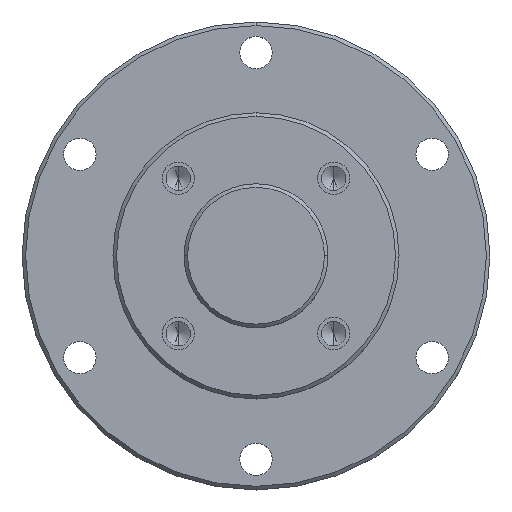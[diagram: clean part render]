
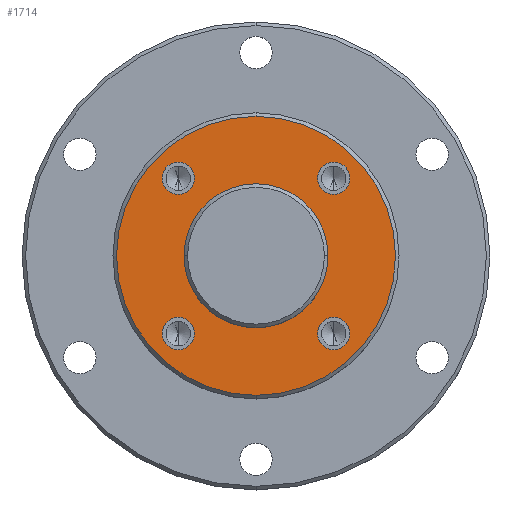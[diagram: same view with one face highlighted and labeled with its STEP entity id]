
A CAD part, top view. The second image highlights one B-rep face of the part: STEP entity #1714.
In plain terms, the highlighted planar face has unit normal (0, 0, 1).
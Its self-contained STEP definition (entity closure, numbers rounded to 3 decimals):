
#30 = FACE_BOUND ( 'NONE', #49, .T. ) ;
#34 = FACE_BOUND ( 'NONE', #2007, .T. ) ;
#38 = FACE_BOUND ( 'NONE', #1863, .T. ) ;
#49 = EDGE_LOOP ( 'NONE', ( #236, #1756 ) ) ;
#58 = FACE_BOUND ( 'NONE', #934, .T. ) ;
#62 = FACE_OUTER_BOUND ( 'NONE', #204, .T. ) ;
#63 = DIRECTION ( 'NONE',  ( 0., 0., 1. ) ) ;
#73 = AXIS2_PLACEMENT_3D ( 'NONE', #2210, #319, #1283 ) ;
#77 = ORIENTED_EDGE ( 'NONE', *, *, #2186, .F. ) ;
#90 = FACE_BOUND ( 'NONE', #1515, .T. ) ;
#96 = VERTEX_POINT ( 'NONE', #1346 ) ;
#147 = VERTEX_POINT ( 'NONE', #226 ) ;
#171 = CIRCLE ( 'NONE', #373, 38.75 ) ;
#204 = EDGE_LOOP ( 'NONE', ( #1432, #593 ) ) ;
#226 = CARTESIAN_POINT ( 'NONE',  ( 17.067, 21.567, 0. ) ) ;
#233 = DIRECTION ( 'NONE',  ( 0., 0., 1. ) ) ;
#236 = ORIENTED_EDGE ( 'NONE', *, *, #789, .F. ) ;
#242 = CIRCLE ( 'NONE', #455, 4.5 ) ;
#255 = CIRCLE ( 'NONE', #463, 4.5 ) ;
#262 = CIRCLE ( 'NONE', #503, 38.75 ) ;
#266 = CIRCLE ( 'NONE', #546, 20. ) ;
#275 = DIRECTION ( 'NONE',  ( 0., 0., 1. ) ) ;
#319 = DIRECTION ( 'NONE',  ( 0., 0., -1. ) ) ;
#333 = CARTESIAN_POINT ( 'NONE',  ( -26.067, 21.567, 0. ) ) ;
#355 = DIRECTION ( 'NONE',  ( 0., 0., 1. ) ) ;
#373 = AXIS2_PLACEMENT_3D ( 'NONE', #756, #1940, #953 ) ;
#438 = ORIENTED_EDGE ( 'NONE', *, *, #1264, .F. ) ;
#455 = AXIS2_PLACEMENT_3D ( 'NONE', #2106, #1111, #2227 ) ;
#458 = VERTEX_POINT ( 'NONE', #1176 ) ;
#463 = AXIS2_PLACEMENT_3D ( 'NONE', #1474, #355, #1611 ) ;
#503 = AXIS2_PLACEMENT_3D ( 'NONE', #907, #2102, #1104 ) ;
#546 = AXIS2_PLACEMENT_3D ( 'NONE', #1898, #897, #2095 ) ;
#549 = CARTESIAN_POINT ( 'NONE',  ( -17.067, -21.567, 0. ) ) ;
#593 = ORIENTED_EDGE ( 'NONE', *, *, #1408, .T. ) ;
#603 = CARTESIAN_POINT ( 'NONE',  ( 26.067, -21.567, 0. ) ) ;
#676 = CIRCLE ( 'NONE', #1252, 4.5 ) ;
#678 = CIRCLE ( 'NONE', #1263, 4.5 ) ;
#707 = EDGE_CURVE ( 'NONE', #1872, #1445, #739, .T. ) ;
#721 = VERTEX_POINT ( 'NONE', #333 ) ;
#739 = CIRCLE ( 'NONE', #1350, 20. ) ;
#752 = ORIENTED_EDGE ( 'NONE', *, *, #1301, .F. ) ;
#756 = CARTESIAN_POINT ( 'NONE',  ( 0., 0., 0. ) ) ;
#769 = EDGE_CURVE ( 'NONE', #1729, #147, #678, .T. ) ;
#789 = EDGE_CURVE ( 'NONE', #1547, #2004, #676, .T. ) ;
#809 = CARTESIAN_POINT ( 'NONE',  ( -21.567, 21.567, 0. ) ) ;
#897 = DIRECTION ( 'NONE',  ( 0., 0., 1. ) ) ;
#898 = CARTESIAN_POINT ( 'NONE',  ( 0., 0., 0. ) ) ;
#907 = CARTESIAN_POINT ( 'NONE',  ( 0., 0., 0. ) ) ;
#934 = EDGE_LOOP ( 'NONE', ( #438, #1905 ) ) ;
#953 = DIRECTION ( 'NONE',  ( 0., 1., 0. ) ) ;
#982 = CARTESIAN_POINT ( 'NONE',  ( 0., -38.75, 0. ) ) ;
#1000 = DIRECTION ( 'NONE',  ( 1., 0., 0. ) ) ;
#1001 = CARTESIAN_POINT ( 'NONE',  ( 21.567, -21.567, 0. ) ) ;
#1020 = DIRECTION ( 'NONE',  ( 0., 0., 1. ) ) ;
#1023 = ORIENTED_EDGE ( 'NONE', *, *, #2212, .F. ) ;
#1069 = CARTESIAN_POINT ( 'NONE',  ( 0., 38.75, 0. ) ) ;
#1095 = DIRECTION ( 'NONE',  ( 1., 0., 0. ) ) ;
#1104 = DIRECTION ( 'NONE',  ( 0., 1., 0. ) ) ;
#1110 = VERTEX_POINT ( 'NONE', #1069 ) ;
#1111 = DIRECTION ( 'NONE',  ( 0., 0., 1. ) ) ;
#1132 = CARTESIAN_POINT ( 'NONE',  ( 17.067, -21.567, 0. ) ) ;
#1176 = CARTESIAN_POINT ( 'NONE',  ( -26.067, -21.567, 0. ) ) ;
#1200 = DIRECTION ( 'NONE',  ( 1., 0., 0. ) ) ;
#1204 = CARTESIAN_POINT ( 'NONE',  ( 21.567, -21.567, 0. ) ) ;
#1252 = AXIS2_PLACEMENT_3D ( 'NONE', #1001, #2163, #1200 ) ;
#1263 = AXIS2_PLACEMENT_3D ( 'NONE', #1376, #233, #1519 ) ;
#1264 = EDGE_CURVE ( 'NONE', #1445, #1872, #266, .T. ) ;
#1283 = DIRECTION ( 'NONE',  ( 0., 1., 0. ) ) ;
#1288 = EDGE_CURVE ( 'NONE', #1110, #1538, #262, .T. ) ;
#1298 = EDGE_CURVE ( 'NONE', #96, #721, #242, .T. ) ;
#1301 = EDGE_CURVE ( 'NONE', #1955, #458, #255, .T. ) ;
#1346 = CARTESIAN_POINT ( 'NONE',  ( -17.067, 21.567, 0. ) ) ;
#1347 = CARTESIAN_POINT ( 'NONE',  ( 20., 0., 0. ) ) ;
#1350 = AXIS2_PLACEMENT_3D ( 'NONE', #898, #2096, #1095 ) ;
#1376 = CARTESIAN_POINT ( 'NONE',  ( 21.567, 21.567, 0. ) ) ;
#1385 = DIRECTION ( 'NONE',  ( 1., 0., 0. ) ) ;
#1408 = EDGE_CURVE ( 'NONE', #1538, #1110, #171, .T. ) ;
#1411 = CARTESIAN_POINT ( 'NONE',  ( 21.567, 21.567, 0. ) ) ;
#1432 = ORIENTED_EDGE ( 'NONE', *, *, #1288, .T. ) ;
#1445 = VERTEX_POINT ( 'NONE', #1347 ) ;
#1474 = CARTESIAN_POINT ( 'NONE',  ( -21.567, -21.567, 0. ) ) ;
#1515 = EDGE_LOOP ( 'NONE', ( #2034, #1542 ) ) ;
#1519 = DIRECTION ( 'NONE',  ( -1., 0., 0. ) ) ;
#1538 = VERTEX_POINT ( 'NONE', #982 ) ;
#1542 = ORIENTED_EDGE ( 'NONE', *, *, #2142, .F. ) ;
#1547 = VERTEX_POINT ( 'NONE', #603 ) ;
#1552 = DIRECTION ( 'NONE',  ( -1., 0., 0. ) ) ;
#1611 = DIRECTION ( 'NONE',  ( -1., 0., 0. ) ) ;
#1612 = CARTESIAN_POINT ( 'NONE',  ( -20., 0., 0. ) ) ;
#1613 = CIRCLE ( 'NONE', #1725, 4.5 ) ;
#1649 = ORIENTED_EDGE ( 'NONE', *, *, #769, .F. ) ;
#1714 = ADVANCED_FACE ( 'NONE', ( #58, #62, #90, #38, #34, #30 ), #2087, .F. ) ;
#1725 = AXIS2_PLACEMENT_3D ( 'NONE', #1411, #275, #1552 ) ;
#1729 = VERTEX_POINT ( 'NONE', #1735 ) ;
#1735 = CARTESIAN_POINT ( 'NONE',  ( 26.067, 21.567, 0. ) ) ;
#1743 = CIRCLE ( 'NONE', #1852, 4.5 ) ;
#1756 = ORIENTED_EDGE ( 'NONE', *, *, #2172, .F. ) ;
#1817 = CIRCLE ( 'NONE', #1945, 4.5 ) ;
#1852 = AXIS2_PLACEMENT_3D ( 'NONE', #2015, #1020, #2174 ) ;
#1863 = EDGE_LOOP ( 'NONE', ( #752, #77 ) ) ;
#1872 = VERTEX_POINT ( 'NONE', #1612 ) ;
#1896 = CIRCLE ( 'NONE', #1988, 4.5 ) ;
#1898 = CARTESIAN_POINT ( 'NONE',  ( 0., 0., 0. ) ) ;
#1905 = ORIENTED_EDGE ( 'NONE', *, *, #707, .F. ) ;
#1940 = DIRECTION ( 'NONE',  ( 0., 0., 1. ) ) ;
#1945 = AXIS2_PLACEMENT_3D ( 'NONE', #1204, #63, #1385 ) ;
#1955 = VERTEX_POINT ( 'NONE', #549 ) ;
#1988 = AXIS2_PLACEMENT_3D ( 'NONE', #809, #1999, #1000 ) ;
#1999 = DIRECTION ( 'NONE',  ( 0., 0., 1. ) ) ;
#2004 = VERTEX_POINT ( 'NONE', #1132 ) ;
#2007 = EDGE_LOOP ( 'NONE', ( #1649, #1023 ) ) ;
#2015 = CARTESIAN_POINT ( 'NONE',  ( -21.567, -21.567, 0. ) ) ;
#2034 = ORIENTED_EDGE ( 'NONE', *, *, #1298, .F. ) ;
#2087 = PLANE ( 'NONE',  #73 ) ;
#2095 = DIRECTION ( 'NONE',  ( 1., 0., 0. ) ) ;
#2096 = DIRECTION ( 'NONE',  ( 0., 0., 1. ) ) ;
#2102 = DIRECTION ( 'NONE',  ( 0., 0., 1. ) ) ;
#2106 = CARTESIAN_POINT ( 'NONE',  ( -21.567, 21.567, 0. ) ) ;
#2142 = EDGE_CURVE ( 'NONE', #721, #96, #1896, .T. ) ;
#2163 = DIRECTION ( 'NONE',  ( 0., 0., 1. ) ) ;
#2172 = EDGE_CURVE ( 'NONE', #2004, #1547, #1817, .T. ) ;
#2174 = DIRECTION ( 'NONE',  ( -1., 0., 0. ) ) ;
#2186 = EDGE_CURVE ( 'NONE', #458, #1955, #1743, .T. ) ;
#2210 = CARTESIAN_POINT ( 'NONE',  ( 0., 39.75, 0. ) ) ;
#2212 = EDGE_CURVE ( 'NONE', #147, #1729, #1613, .T. ) ;
#2227 = DIRECTION ( 'NONE',  ( 1., 0., 0. ) ) ;
